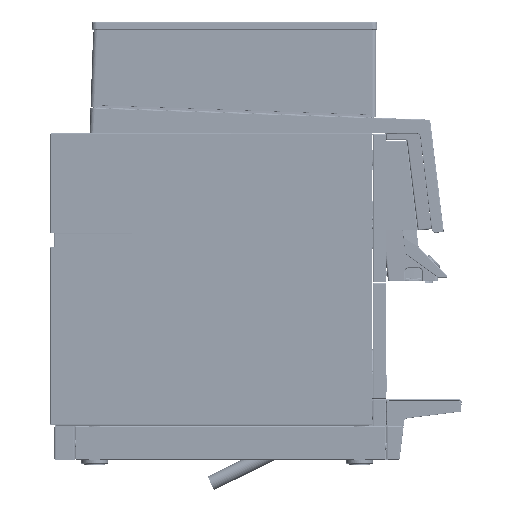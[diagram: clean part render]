
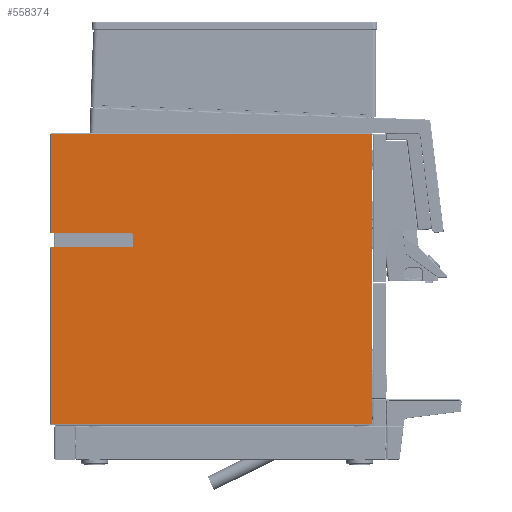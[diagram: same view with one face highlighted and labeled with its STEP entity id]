
A CAD part, left-side view. The second image highlights one B-rep face of the part: STEP entity #558374.
In plain terms, the highlighted planar face has unit normal (-1, 0, 0).
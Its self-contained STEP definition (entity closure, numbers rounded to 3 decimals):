
#62628=CIRCLE('',#606160,0.5);
#62630=CIRCLE('',#606163,0.5);
#187949=ORIENTED_EDGE('',*,*,#272959,.F.);
#187950=ORIENTED_EDGE('',*,*,#272879,.F.);
#187951=ORIENTED_EDGE('',*,*,#272885,.F.);
#187952=ORIENTED_EDGE('',*,*,#272922,.F.);
#187953=ORIENTED_EDGE('',*,*,#272915,.F.);
#187954=ORIENTED_EDGE('',*,*,#273396,.T.);
#187955=ORIENTED_EDGE('',*,*,#273288,.T.);
#187956=ORIENTED_EDGE('',*,*,#273043,.F.);
#187957=ORIENTED_EDGE('',*,*,#273286,.T.);
#187958=ORIENTED_EDGE('',*,*,#273047,.F.);
#187959=ORIENTED_EDGE('',*,*,#273397,.T.);
#187960=ORIENTED_EDGE('',*,*,#273398,.T.);
#272879=EDGE_CURVE('',#321353,#321349,#351946,.T.);
#272885=EDGE_CURVE('',#321358,#321353,#351949,.T.);
#272915=EDGE_CURVE('',#321385,#321383,#351962,.T.);
#272922=EDGE_CURVE('',#321383,#321358,#351965,.T.);
#272959=EDGE_CURVE('',#321349,#321417,#351982,.T.);
#273043=EDGE_CURVE('',#321501,#321502,#62628,.T.);
#273047=EDGE_CURVE('',#321505,#321506,#62630,.T.);
#273286=EDGE_CURVE('',#321501,#321506,#352213,.T.);
#273288=EDGE_CURVE('',#321658,#321502,#352215,.T.);
#273396=EDGE_CURVE('',#321385,#321658,#352323,.T.);
#273397=EDGE_CURVE('',#321505,#321700,#352324,.T.);
#273398=EDGE_CURVE('',#321700,#321417,#352325,.T.);
#321349=VERTEX_POINT('',#1084625);
#321353=VERTEX_POINT('',#1084632);
#321358=VERTEX_POINT('',#1084645);
#321383=VERTEX_POINT('',#1084704);
#321385=VERTEX_POINT('',#1084708);
#321417=VERTEX_POINT('',#1084792);
#321501=VERTEX_POINT('',#1084983);
#321502=VERTEX_POINT('',#1084985);
#321505=VERTEX_POINT('',#1084992);
#321506=VERTEX_POINT('',#1084994);
#321658=VERTEX_POINT('',#1085444);
#321700=VERTEX_POINT('',#1085621);
#351946=LINE('',#1084633,#382674);
#351949=LINE('',#1084646,#382677);
#351962=LINE('',#1084709,#382690);
#351965=LINE('',#1084722,#382693);
#351982=LINE('',#1084795,#382710);
#352213=LINE('',#1085440,#382941);
#352215=LINE('',#1085443,#382943);
#352323=LINE('',#1085619,#383051);
#352324=LINE('',#1085620,#383052);
#352325=LINE('',#1085622,#383053);
#382674=VECTOR('',#721074,1000.);
#382677=VECTOR('',#721087,1000.);
#382690=VECTOR('',#721146,1000.);
#382693=VECTOR('',#721161,1000.);
#382710=VECTOR('',#721234,1000.);
#382941=VECTOR('',#721813,1000.);
#382943=VECTOR('',#721817,1000.);
#383051=VECTOR('',#721977,1000.);
#383052=VECTOR('',#721978,1000.);
#383053=VECTOR('',#721979,1000.);
#418960=EDGE_LOOP('',(#187949,#187950,#187951,#187952,#187953,#187954,#187955,
#187956,#187957,#187958,#187959,#187960));
#452403=FACE_BOUND('',#418960,.T.);
#463443=PLANE('',#606297);
#558374=ADVANCED_FACE('',(#452403),#463443,.T.);
#606160=AXIS2_PLACEMENT_3D('',#1084984,#721402,#721403);
#606163=AXIS2_PLACEMENT_3D('',#1084993,#721410,#721411);
#606297=AXIS2_PLACEMENT_3D('',#1085618,#721975,#721976);
#721074=DIRECTION('',(0.,1.,0.));
#721087=DIRECTION('',(0.,0.,-1.));
#721146=DIRECTION('',(0.,0.,1.));
#721161=DIRECTION('',(0.,-1.,0.));
#721234=DIRECTION('',(0.,0.,1.));
#721402=DIRECTION('',(-1.,0.,0.));
#721403=DIRECTION('',(0.,-0.707,0.707));
#721410=DIRECTION('',(-1.,0.,0.));
#721411=DIRECTION('',(0.,-0.707,-0.707));
#721813=DIRECTION('',(0.,0.,-1.));
#721817=DIRECTION('',(0.,-1.,0.));
#721975=DIRECTION('',(-1.,0.,0.));
#721976=DIRECTION('',(0.,0.,1.));
#721977=DIRECTION('',(0.,0.,-1.));
#721978=DIRECTION('',(0.,1.,0.));
#721979=DIRECTION('',(0.,0.,-1.));
#1084625=CARTESIAN_POINT('',(-114.,254.4,1.2));
#1084632=CARTESIAN_POINT('',(-114.,-213.2,1.2));
#1084633=CARTESIAN_POINT('',(-114.,-213.2,1.2));
#1084645=CARTESIAN_POINT('',(-114.,-213.2,424.8));
#1084646=CARTESIAN_POINT('',(-114.,-213.2,424.8));
#1084704=CARTESIAN_POINT('',(-114.,254.4,424.8));
#1084708=CARTESIAN_POINT('',(-114.,254.4,281.2));
#1084709=CARTESIAN_POINT('',(-114.,254.4,281.2));
#1084722=CARTESIAN_POINT('',(-114.,254.4,424.8));
#1084792=CARTESIAN_POINT('',(-114.,254.4,258.8));
#1084795=CARTESIAN_POINT('',(-114.,254.4,1.2));
#1084983=CARTESIAN_POINT('',(-114.,135.6,279.5));
#1084984=CARTESIAN_POINT('',(-114.,136.1,279.5));
#1084985=CARTESIAN_POINT('',(-114.,136.1,280.));
#1084992=CARTESIAN_POINT('',(-114.,136.1,260.));
#1084993=CARTESIAN_POINT('',(-114.,136.1,260.5));
#1084994=CARTESIAN_POINT('',(-114.,135.6,260.5));
#1085440=CARTESIAN_POINT('',(-114.,135.6,279.5));
#1085443=CARTESIAN_POINT('',(-114.,254.4,280.));
#1085444=CARTESIAN_POINT('',(-114.,254.4,280.));
#1085618=CARTESIAN_POINT('',(-114.,-214.4,0.));
#1085619=CARTESIAN_POINT('',(-114.,254.4,281.2));
#1085620=CARTESIAN_POINT('',(-114.,136.1,260.));
#1085621=CARTESIAN_POINT('',(-114.,254.4,260.));
#1085622=CARTESIAN_POINT('',(-114.,254.4,260.));
